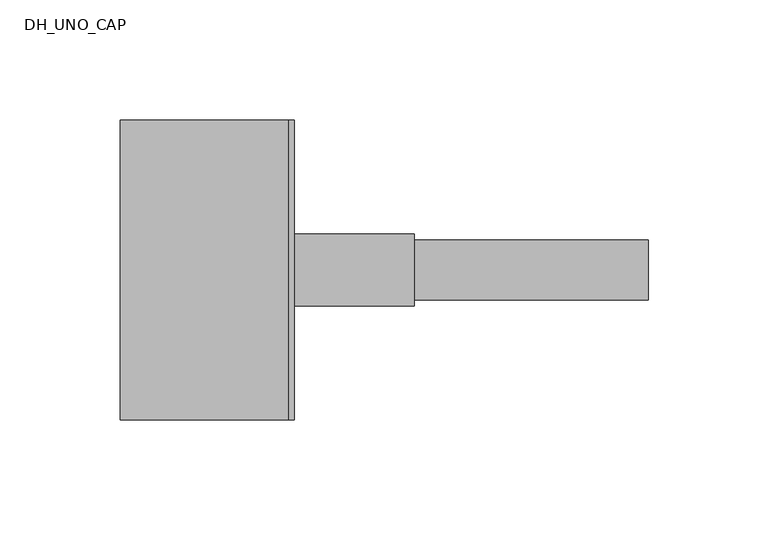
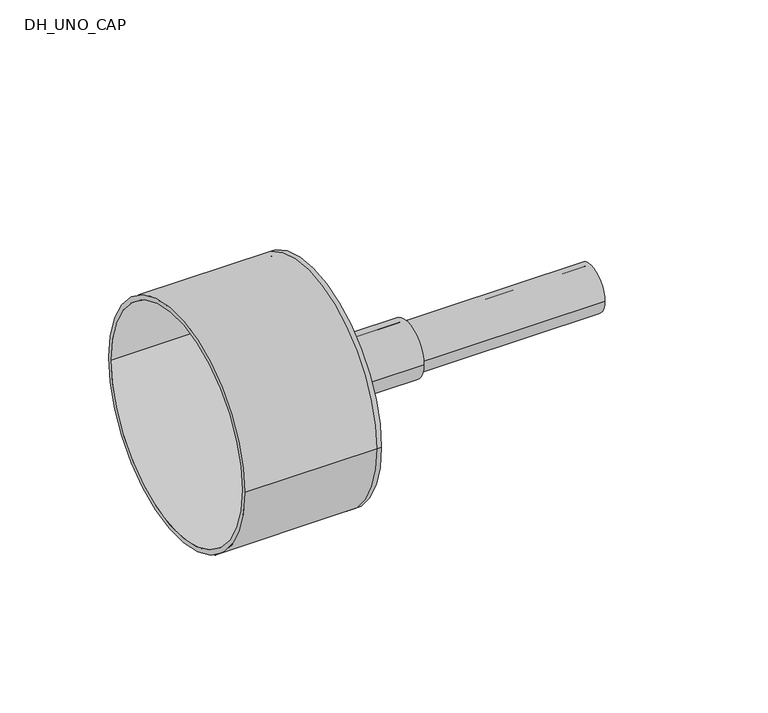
"""IFC4 building model written with IfcOpenShell, lengths in millimetres: pipe fitting geometry, DH_UNO_CAP : RAUVITHERM UNO 11 Heating - Rubber Cap."""

from ifc_helpers import new_model, si_unit, point, frame, origin, origin_2d, place, context, project, spatial, polyline, circle_curve, trimmed, segment, composite_curve, outline, extrude, source, transform, mapped, element, save
from ifc_brep_helpers import plane_surface, cylinder_surface, revolved_surface, advanced_brep


def dh_uno_cap_e4b64a7b(model_context):
    return source(origin(), model_context, "Body", "SolidModel", [
        extrude(outline(composite_curve([segment(trimmed(circle_curve(origin_2d(), 12.5), [point((-12.5, 0.0))], [point((12.5, 0.0))], False, "CARTESIAN"), True, "CONTINUOUS"), segment(trimmed(circle_curve(origin_2d(), 12.5), [point((12.5, 0.0))], [point((-12.5, 0.0))], False, "CARTESIAN"), True, "CONTINUOUS")], self_intersect=False), holes=[composite_curve([segment(trimmed(circle_curve(origin_2d(), 10.2), [point((-10.2, 0.0))], [point((10.2, 0.0))], True, "CARTESIAN"), True, "CONTINUOUS"), segment(trimmed(circle_curve(origin_2d(), 10.2), [point((10.2, 0.0))], [point((-10.2, 0.0))], True, "CARTESIAN"), True, "CONTINUOUS")], self_intersect=False)]), frame((0.0, 0.0, 0.0), z_axis=(1.0, 0.0, 0.0), x_axis=(0.0, 1.0, 0.0)), (0.0, 0.0, 1.0), 150.0),
        advanced_brep(
        [(-70.0, -62.5, 0.0), (-70.0, 62.5, 0.0), (-70.0, -60.0, 0.0), (-70.0, 60.0, 0.0), (0.0, -60.0, 0.0), (0.0, 60.0, 0.0), (0.0, -62.5, 0.0), (0.0, 62.5, 0.0), (0.0, 12.5, 0.0), (0.0, -12.5, 0.0), (2.5, -62.5, 0.0), (2.5, 62.5, 0.0), (2.5, -12.5, 0.0), (2.5, 12.5, 0.0)],
        [
            (0, 1, circle_curve(frame((-70.0, 0.0, 0.0), z_axis=(-1.0, 0.0, 0.0), x_axis=(0.0, 1.0, 0.0)), 62.5)),
            (1, 0, circle_curve(frame((-70.0, 0.0, 0.0), z_axis=(-1.0, 0.0, 0.0), x_axis=(0.0, 1.0, 0.0)), 62.5)),
            (2, 3, circle_curve(frame((-70.0, 0.0, 0.0), z_axis=(1.0, 0.0, 0.0), x_axis=(0.0, 1.0, 0.0)), 60.0)),
            (3, 2, circle_curve(frame((-70.0, 0.0, 0.0), z_axis=(1.0, 0.0, 0.0), x_axis=(0.0, 1.0, 0.0)), 60.0)),
            (2, 4),
            (4, 5, circle_curve(frame((0.0, 0.0, 0.0), z_axis=(1.0, 0.0, 0.0), x_axis=(0.0, 1.0, 0.0)), 60.0)),
            (5, 3),
            (5, 4, circle_curve(frame((0.0, 0.0, 0.0), z_axis=(1.0, 0.0, 0.0), x_axis=(0.0, 1.0, 0.0)), 60.0)),
            (0, 6),
            (6, 7, circle_curve(frame((0.0, 0.0, 0.0), z_axis=(-1.0, 0.0, 0.0), x_axis=(0.0, 1.0, 0.0)), 62.5)),
            (7, 1),
            (7, 6, circle_curve(frame((0.0, 0.0, 0.0), z_axis=(-1.0, 0.0, 0.0), x_axis=(0.0, 1.0, 0.0)), 62.5)),
            (8, 9, circle_curve(frame((0.0, 0.0, 0.0), z_axis=(1.0, 0.0, 0.0), x_axis=(0.0, 1.0, 0.0)), 12.5)),
            (9, 8, circle_curve(frame((0.0, 0.0, 0.0), z_axis=(1.0, 0.0, 0.0), x_axis=(0.0, 1.0, 0.0)), 12.5)),
            (10, 11, circle_curve(frame((2.5, 0.0, 0.0), z_axis=(1.0, 0.0, 0.0), x_axis=(0.0, 1.0, 0.0)), 62.5)),
            (11, 10, circle_curve(frame((2.5, 0.0, 0.0), z_axis=(1.0, 0.0, 0.0), x_axis=(0.0, 1.0, 0.0)), 62.5)),
            (12, 13, circle_curve(frame((2.5, 0.0, 0.0), z_axis=(-1.0, 0.0, 0.0), x_axis=(0.0, 1.0, 0.0)), 12.5)),
            (13, 12, circle_curve(frame((2.5, 0.0, 0.0), z_axis=(-1.0, 0.0, 0.0), x_axis=(0.0, 1.0, 0.0)), 12.5)),
            (11, 7),
            (6, 10),
            (8, 13),
            (12, 9),
        ],
        [
            plane_surface(frame((-70.0, 0.0, 0.0), z_axis=(-1.0, 0.0, 0.0), x_axis=(0.0, 0.0, 1.0))),
            revolved_surface(polyline([(0.0, 60.0, 0.0), (-70.0, 60.0, 0.0)]), (-70.0, 0.0, 0.0), (1.0, 0.0, 0.0)),
            cylinder_surface(frame((-70.0, 0.0, 0.0), z_axis=(-1.0, 0.0, 0.0), x_axis=(0.0, 1.0, 0.0)), 62.5),
            plane_surface(frame((0.0, 0.0, 0.0), z_axis=(-1.0, 0.0, 0.0), x_axis=(0.0, 0.0, 1.0))),
            plane_surface(frame((2.5, 0.0, 0.0), z_axis=(1.0, 0.0, 0.0), x_axis=(0.0, 0.0, 1.0))),
            cylinder_surface(frame((0.0, 0.0, 0.0), z_axis=(-1.0, 0.0, 0.0), x_axis=(0.0, 1.0, 0.0)), 62.5),
            revolved_surface(polyline([(0.0, 12.5, 0.0), (2.5, 12.5, 0.0)]), (0.0, 0.0, 0.0), (-1.0, 0.0, 0.0)),
        ],
        [
            (0, [[1, 2], [3, 4]]),
            (1, [[-3, 5, 6, 7]]),
            (1, [[-4, -7, 8, -5]]),
            (2, [[-1, 9, 10, 11]]),
            (2, [[-2, -11, 12, -9]]),
            (3, [[-6, -8], [13, 14]]),
            (4, [[15, 16], [17, 18]]),
            (5, [[-16, 19, -10, 20]]),
            (5, [[-15, -20, -12, -19]]),
            (6, [[21, -17, 22, -13]]),
            (6, [[-21, -14, -22, -18]]),
        ],
    ),
        extrude(outline(composite_curve([segment(trimmed(circle_curve(origin_2d(), 15.0), [point((-15.0, 0.0))], [point((15.0, 0.0))], False, "CARTESIAN"), True, "CONTINUOUS"), segment(trimmed(circle_curve(origin_2d(), 15.0), [point((15.0, 0.0))], [point((-15.0, 0.0))], False, "CARTESIAN"), True, "CONTINUOUS")], self_intersect=False), holes=[composite_curve([segment(trimmed(circle_curve(origin_2d(), 12.5), [point((-12.5, 0.0))], [point((12.5, 0.0))], True, "CARTESIAN"), True, "CONTINUOUS"), segment(trimmed(circle_curve(origin_2d(), 12.5), [point((12.5, 0.0))], [point((-12.5, 0.0))], True, "CARTESIAN"), True, "CONTINUOUS")], self_intersect=False)]), frame((2.5, 0.0, 0.0), z_axis=(1.0, 0.0, 0.0), x_axis=(0.0, 1.0, 0.0)), (0.0, 0.0, 1.0), 50.0),
    ])


if __name__ == "__main__":
    model = new_model("IFC4")
    model_context = context("Model", 3, world=origin())
    ifc_project = project(units=[si_unit("LENGTHUNIT", "METRE", prefix="MILLI")], contexts=[model_context])
    site = spatial("IfcSite", under=ifc_project)
    building = spatial("IfcBuilding", under=site)
    placement = place(None, origin())
    dh_uno_cap_shape = dh_uno_cap_e4b64a7b(model_context)
    element("IfcPipeFitting", 1, ObjectType="DH_UNO_CAP : RAUVITHERM UNO 11 Heating - Rubber Cap", at=placement, inside=building, context=model_context, shape_type="MappedRepresentation", body=[
        mapped(dh_uno_cap_shape, transform((0.0, 0.0, 0.0), x_axis=(1.0, 0.0, 0.0), y_axis=(0.0, 1.0, 0.0), z_axis=(0.0, 0.0, 1.0))),
    ])
    save(model, "model.ifc")
